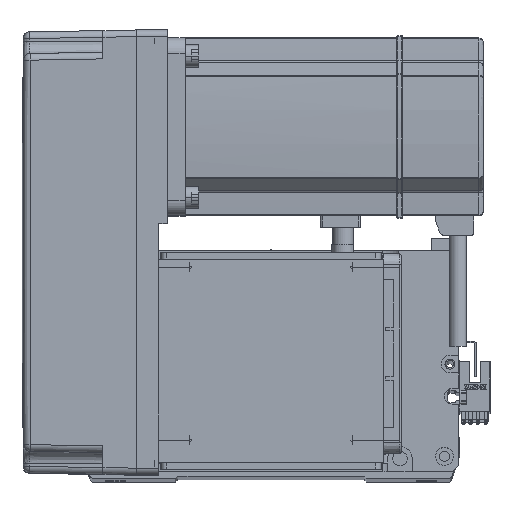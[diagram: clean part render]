
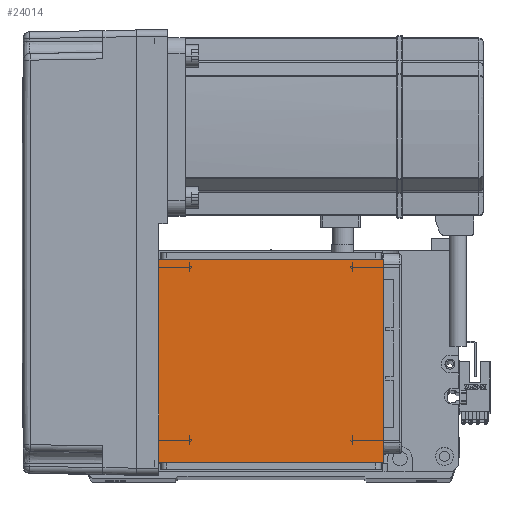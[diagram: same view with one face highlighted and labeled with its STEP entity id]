
A CAD part, top view. The second image highlights one B-rep face of the part: STEP entity #24014.
In plain terms, the highlighted planar face has unit normal (0, 0, 1).
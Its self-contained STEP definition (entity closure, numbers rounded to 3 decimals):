
#347 = EDGE_CURVE ( 'NONE', #9854, #36098, #10862, .T. ) ;
#500 = VECTOR ( 'NONE', #11528, 1000. ) ;
#1370 = EDGE_CURVE ( 'NONE', #30943, #36098, #43898, .T. ) ;
#7990 = VECTOR ( 'NONE', #29484, 1000. ) ;
#9854 = VERTEX_POINT ( 'NONE', #22611 ) ;
#10862 = LINE ( 'NONE', #51120, #500 ) ;
#11083 = CARTESIAN_POINT ( 'NONE',  ( -50.5, 20., 115. ) ) ;
#11528 = DIRECTION ( 'NONE',  ( 0., 1., 0. ) ) ;
#12409 = ORIENTED_EDGE ( 'NONE', *, *, #347, .T. ) ;
#12576 = DIRECTION ( 'NONE',  ( 0., 0., 1. ) ) ;
#14547 = FACE_OUTER_BOUND ( 'NONE', #41943, .T. ) ;
#19559 = ORIENTED_EDGE ( 'NONE', *, *, #44125, .F. ) ;
#20086 = LINE ( 'NONE', #50745, #20759 ) ;
#20236 = CARTESIAN_POINT ( 'NONE',  ( -70.004, 111.5, 115. ) ) ;
#20759 = VECTOR ( 'NONE', #36981, 1000. ) ;
#21173 = VECTOR ( 'NONE', #26270, 1000. ) ;
#21290 = DIRECTION ( 'NONE',  ( 1., 0., 0. ) ) ;
#22611 = CARTESIAN_POINT ( 'NONE',  ( 50.5, 20., 115. ) ) ;
#24014 = ADVANCED_FACE ( 'NONE', ( #14547 ), #34715, .T. ) ;
#26270 = DIRECTION ( 'NONE',  ( -1., 0., 0. ) ) ;
#26688 = CARTESIAN_POINT ( 'NONE',  ( -50.5, 111.5, 115. ) ) ;
#27911 = AXIS2_PLACEMENT_3D ( 'NONE', #47343, #12576, #21290 ) ;
#29484 = DIRECTION ( 'NONE',  ( 1., 0., 0. ) ) ;
#30943 = VERTEX_POINT ( 'NONE', #26688 ) ;
#31718 = ORIENTED_EDGE ( 'NONE', *, *, #32016, .T. ) ;
#32016 = EDGE_CURVE ( 'NONE', #30943, #36907, #20086, .T. ) ;
#33001 = ORIENTED_EDGE ( 'NONE', *, *, #1370, .F. ) ;
#33917 = CARTESIAN_POINT ( 'NONE',  ( 50.5, 111.5, 115. ) ) ;
#34715 = PLANE ( 'NONE',  #27911 ) ;
#36098 = VERTEX_POINT ( 'NONE', #33917 ) ;
#36907 = VERTEX_POINT ( 'NONE', #11083 ) ;
#36981 = DIRECTION ( 'NONE',  ( 0., -1., 0. ) ) ;
#39583 = CARTESIAN_POINT ( 'NONE',  ( -70.004, 20., 115. ) ) ;
#41210 = LINE ( 'NONE', #39583, #21173 ) ;
#41943 = EDGE_LOOP ( 'NONE', ( #33001, #31718, #19559, #12409 ) ) ;
#43898 = LINE ( 'NONE', #20236, #7990 ) ;
#44125 = EDGE_CURVE ( 'NONE', #9854, #36907, #41210, .T. ) ;
#47343 = CARTESIAN_POINT ( 'NONE',  ( 0., 0., 115. ) ) ;
#50745 = CARTESIAN_POINT ( 'NONE',  ( -50.5, 122., 115. ) ) ;
#51120 = CARTESIAN_POINT ( 'NONE',  ( 50.5, 122., 115. ) ) ;
